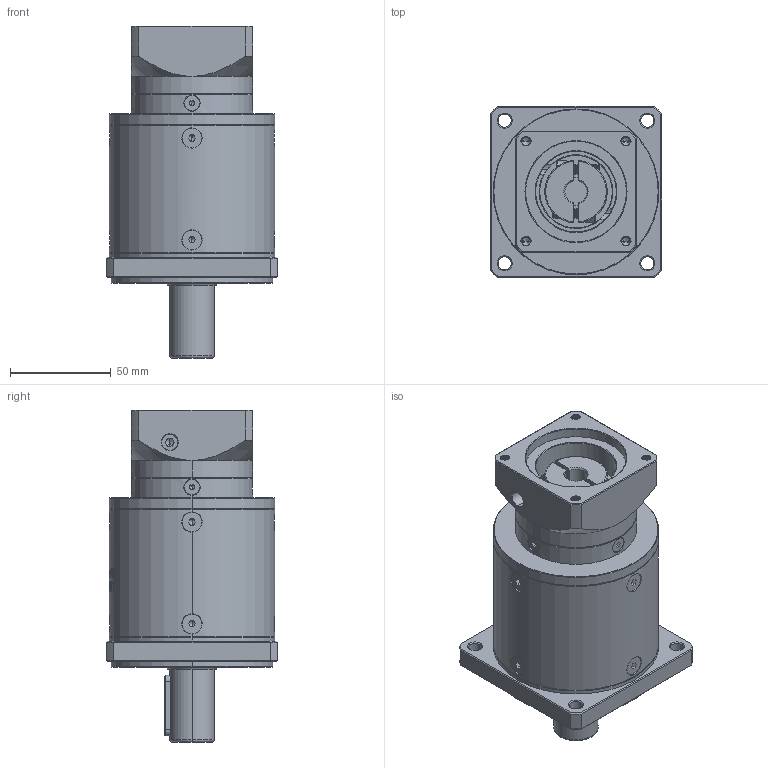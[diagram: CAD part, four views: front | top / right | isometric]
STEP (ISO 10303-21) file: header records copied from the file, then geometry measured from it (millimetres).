
FILE_DESCRIPTION (( 'STEP AP214' ), '1' );
FILE_NAME ('ZF080-D22-L3-P2-11-50-70-M5.step', '2023-08-19T06:57:00', ( '' ), ( '' ), 'SwSTEP 2.0', 'SolidWorks 2016', '' );
FILE_SCHEMA (( 'AUTOMOTIVE_DESIGN' ));
Length unit declared in the file: millimetre
Products named in the file (1): ZF080-D22-L3-P2-11-50-70-M5
Bounding box: 85 x 85 x 164.5 mm (x, y, z)
Volume: 574808.1 mm3; surface area: 73082.7 mm2
Topology: 18 solids, 18 shells, 2293 faces, 6042 edges, 3850 vertices
Faces by surface type: plane 1123, cylinder 407, bspline 394, cone 327, torus 42
Entity records: 122081 total; most frequent: CARTESIAN_POINT 45128, ORIENTED_EDGE 12008, DIRECTION 9027, EDGE_CURVE 6004, VERTEX_POINT 3850, LINE 3189, VECTOR 3189, AXIS2_PLACEMENT_3D 2919
